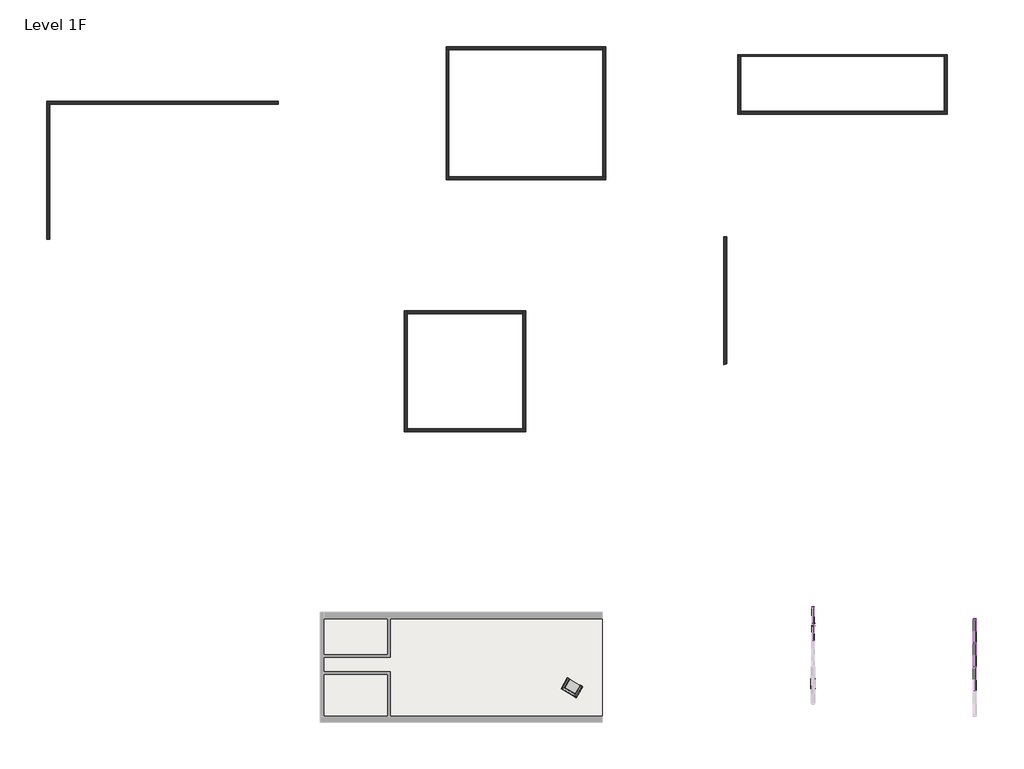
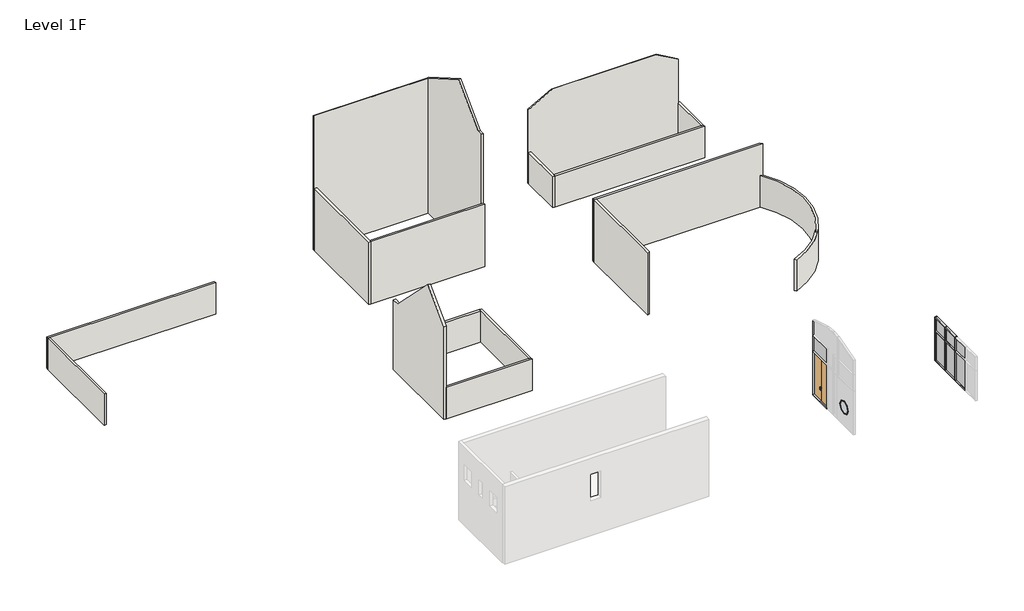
# One storey, part 2 of 2: 17 members, 17 walls, 7 plates, 2 proxies, 1 door, 1 furniture element, 1 slab.
"""IFC4 building model written with IfcOpenShell, lengths in millimetres."""

from ifc_helpers import new_model, si_unit, point, frame, frame_2d, origin, place, context, project, spatial, polyline, circle_curve, trimmed, segment, composite_curve, outline, extrude, faceted_brep, transform, mapped, element, save
from ifc_brep_helpers import plane_surface, cylinder_surface, revolved_surface, advanced_brep
from components import m_trim_window_exterior_flat_round_picture_frame_20400262, m_door_curtain_wall_double_glass_m_door_curtain_wall_double_733e1639, m_chair_corbu_m_chair_corbu_62085674, rectangular_mullion_50_x_150mm_53f686a5, rectangular_mullion_50_x_150mm_8f456225, rectangular_mullion_50_x_150mm_18e46138, rectangular_mullion_50_x_150mm_87e1da99, rectangular_mullion_50_x_150mm_6225e4e3, rectangular_mullion_50_x_150mm_662c37b1, rectangular_mullion_50_x_150mm_b3a53f5b, rectangular_mullion_50_x_150mm_00d54206, rectangular_mullion_50_x_150mm_5f5d7509, rectangular_mullion_50_x_150mm_06e5b0ac, rectangular_mullion_50_x_150mm_1e3c48d4, rectangular_mullion_50_x_150mm_128d93fb, system_panel_glazed_f465e8e4, system_panel_glazed_e98588a4, system_panel_glazed_da0c020f, system_panel_glazed_390bf5ad, system_panel_glazed_fd5f4e28

model = new_model("IFC4")

# Units and contexts
model_context = context("Model", 3, world=origin())
ifc_project = project(units=[si_unit("LENGTHUNIT", "METRE", prefix="MILLI")], contexts=[model_context])

# Site, building, storey
site = spatial("IfcSite", under=ifc_project)
building = spatial("IfcBuilding", under=site)
storey = spatial("IfcBuildingStorey", under=building, Name="Level 1F", Elevation=100.0)

# Proxies
placement = place(None, origin())
m_trim_window_exterior_flat_round_picture_frame_shape = m_trim_window_exterior_flat_round_picture_frame_20400262(model_context)
element("IfcBuildingElementProxy", 1, Name="M_Trim-Window-Exterior-Flat-Round : Picture Frame", ObjectType="M_Trim-Window-Exterior-Flat-Round : Picture Frame", at=placement, inside=storey, context=model_context, shape_type="MappedRepresentation", body=[
    mapped(m_trim_window_exterior_flat_round_picture_frame_shape, transform((19526.2760724, -10895.0423226, 2090.2249317), x_axis=(0.0, 1.0, 0.0), y_axis=(0.0, 0.0, 1.0), z_axis=(1.0, 0.0, 0.0))),
])
element("IfcBuildingElementProxy", 2, Name="M_Trim-Window-Interior-Flat-Round : Picture Frame", ObjectType="M_Trim-Window-Interior-Flat-Round : Picture Frame", at=placement, inside=storey, context=model_context, shape_type="MappedRepresentation", body=[
    mapped(m_trim_window_exterior_flat_round_picture_frame_shape, transform((19326.2760724, -10895.0423226, 2090.2249317), x_axis=(0.0, -1.0, 0.0), y_axis=(0.0, 0.0, 1.0), z_axis=(-1.0, 0.0, 0.0))),
])

# Door
m_door_curtain_wall_double_glass_m_door_curtain_wall_double_shape = m_door_curtain_wall_double_glass_m_door_curtain_wall_double_733e1639(model_context)
element("IfcDoor", 3, ObjectType="M_Door-Curtain-Wall-Double-Glass : M_Door-Curtain-Wall-Double-Glass", at=placement, inside=storey, context=model_context, shape_type="MappedRepresentation", body=[
    mapped(m_door_curtain_wall_double_glass_m_door_curtain_wall_double_shape, transform((19426.2760724, -7634.3966791, 150.0), x_axis=(0.0, -1.0, 0.0), y_axis=(1.0, 0.0, 0.0), z_axis=(0.0, 0.0, 1.0))),
])

# Furniture
m_chair_corbu_m_chair_corbu_shape = m_chair_corbu_m_chair_corbu_62085674(model_context)
element("IfcFurniture", 4, ObjectType="M_Chair-Corbu : M_Chair-Corbu", at=placement, inside=storey, context=model_context, shape_type="MappedRepresentation", body=[
    mapped(m_chair_corbu_m_chair_corbu_shape, transform((6893.346578, -10996.1335961, 100.0), x_axis=(-0.8660254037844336, 0.5000000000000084, 0.0), y_axis=(-0.5000000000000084, -0.8660254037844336, 0.0), z_axis=(0.0, 0.0, 1.0))),
])

# Members
rectangular_mullion_50_x_150mm_shape = rectangular_mullion_50_x_150mm_53f686a5(model_context)
element("IfcMember", 5, ObjectType="Rectangular Mullion : 50 x 150mm", at=placement, inside=storey, context=model_context, shape_type="MappedRepresentation", body=[
    mapped(rectangular_mullion_50_x_150mm_shape, transform((28326.2760724, -8634.3966792, 3613.7564813), x_axis=(0.0, 0.0, 1.0), y_axis=(-1.0, 0.0, 0.0), z_axis=(0.0, -1.0, 0.0))),
])
element("IfcMember", 6, ObjectType="Rectangular Mullion : 50 x 150mm", at=placement, inside=storey, context=model_context, shape_type="MappedRepresentation", body=[
    mapped(rectangular_mullion_50_x_150mm_shape, transform((28326.2760724, -7371.8966791, 100.0), x_axis=(0.0, 0.0, -1.0), y_axis=(-1.0, 0.0, 0.0), z_axis=(0.0, 1.0, 0.0))),
])
rectangular_mullion_50_x_150mm_2_shape = rectangular_mullion_50_x_150mm_8f456225(model_context)
element("IfcMember", 7, ObjectType="Rectangular Mullion : 50 x 150mm", at=placement, inside=storey, context=model_context, shape_type="MappedRepresentation", body=[
    mapped(rectangular_mullion_50_x_150mm_2_shape, transform((28326.2760724, -9971.8966791, 3613.7564813), x_axis=(0.0, 0.0, 1.0), y_axis=(-1.0, 0.0, 0.0), z_axis=(0.0, -1.0, 0.0))),
])
element("IfcMember", 8, ObjectType="Rectangular Mullion : 50 x 150mm", at=placement, inside=storey, context=model_context, shape_type="MappedRepresentation", body=[
    mapped(rectangular_mullion_50_x_150mm_2_shape, transform((28326.2760724, -8684.3966792, 100.0), x_axis=(0.0, 0.0, -1.0), y_axis=(-1.0, 0.0, 0.0), z_axis=(0.0, 1.0, 0.0))),
])
element("IfcMember", 9, ObjectType="Rectangular Mullion : 50 x 150mm", at=placement, inside=storey, context=model_context, shape_type="MappedRepresentation", body=[
    mapped(rectangular_mullion_50_x_150mm_2_shape, transform((28326.2760724, -10021.8966791, 100.0), x_axis=(0.0, 0.0, -1.0), y_axis=(-1.0, 0.0, 0.0), z_axis=(0.0, 1.0, 0.0))),
])
rectangular_mullion_50_x_150mm_3_shape = rectangular_mullion_50_x_150mm_18e46138(model_context)
element("IfcMember", 10, ObjectType="Rectangular Mullion : 50 x 150mm", at=placement, inside=storey, context=model_context, shape_type="MappedRepresentation", body=[
    mapped(rectangular_mullion_50_x_150mm_3_shape, transform((28326.2760724, -8634.3966792, 2500.0), x_axis=(0.0, 0.0, 1.0), y_axis=(-1.0, 0.0, 0.0), z_axis=(0.0, -1.0, 0.0))),
])
rectangular_mullion_50_x_150mm_4_shape = rectangular_mullion_50_x_150mm_87e1da99(model_context)
element("IfcMember", 11, ObjectType="Rectangular Mullion : 50 x 150mm", at=placement, inside=storey, context=model_context, shape_type="MappedRepresentation", body=[
    mapped(rectangular_mullion_50_x_150mm_4_shape, transform((28326.2760724, -9971.8966791, 2500.0), x_axis=(0.0, 0.0, 1.0), y_axis=(-1.0, 0.0, 0.0), z_axis=(0.0, -1.0, 0.0))),
])
rectangular_mullion_50_x_150mm_5_shape = rectangular_mullion_50_x_150mm_6225e4e3(model_context)
element("IfcMember", 12, ObjectType="Rectangular Mullion : 50 x 150mm", at=placement, inside=storey, context=model_context, shape_type="MappedRepresentation", body=[
    mapped(rectangular_mullion_50_x_150mm_5_shape, transform((28326.2760724, -8659.3966792, 100.0), x_axis=(0.0, -1.0, 0.0), y_axis=(-1.0, 0.0, 0.0), z_axis=(0.0, 0.0, -1.0))),
])
element("IfcMember", 13, ObjectType="Rectangular Mullion : 50 x 150mm", at=placement, inside=storey, context=model_context, shape_type="MappedRepresentation", body=[
    mapped(rectangular_mullion_50_x_150mm_5_shape, transform((28326.2760724, -9996.8966791, 100.0), x_axis=(0.0, -1.0, 0.0), y_axis=(-1.0, 0.0, 0.0), z_axis=(0.0, 0.0, -1.0))),
])
rectangular_mullion_50_x_150mm_6_shape = rectangular_mullion_50_x_150mm_662c37b1(model_context)
element("IfcMember", 14, ObjectType="Rectangular Mullion : 50 x 150mm", at=placement, inside=storey, context=model_context, shape_type="MappedRepresentation", body=[
    mapped(rectangular_mullion_50_x_150mm_6_shape, transform((28326.2760724, -7321.8966791, 2500.0), x_axis=(0.0, 1.0, 0.0), y_axis=(-1.0, 0.0, 0.0), z_axis=(0.0, 0.0, 1.0))),
])
rectangular_mullion_50_x_150mm_7_shape = rectangular_mullion_50_x_150mm_b3a53f5b(model_context)
element("IfcMember", 15, ObjectType="Rectangular Mullion : 50 x 150mm", at=placement, inside=storey, context=model_context, shape_type="MappedRepresentation", body=[
    mapped(rectangular_mullion_50_x_150mm_7_shape, transform((28326.2760724, -8659.3966792, 2500.0), x_axis=(0.0, -1.0, 0.0), y_axis=(-1.0, 0.0, 0.0), z_axis=(0.0, 0.0, -1.0))),
])
element("IfcMember", 16, ObjectType="Rectangular Mullion : 50 x 150mm", at=placement, inside=storey, context=model_context, shape_type="MappedRepresentation", body=[
    mapped(rectangular_mullion_50_x_150mm_7_shape, transform((28326.2760724, -9996.8966791, 2500.0), x_axis=(0.0, -1.0, 0.0), y_axis=(-1.0, 0.0, 0.0), z_axis=(0.0, 0.0, -1.0))),
])
rectangular_mullion_50_x_150mm_8_shape = rectangular_mullion_50_x_150mm_00d54206(model_context)
element("IfcMember", 17, ObjectType="Rectangular Mullion : 50 x 150mm", at=placement, inside=storey, context=model_context, shape_type="MappedRepresentation", body=[
    mapped(rectangular_mullion_50_x_150mm_8_shape, transform((28326.2760724, -7321.8966791, 3613.7564813), x_axis=(0.0, 1.0, 0.0), y_axis=(-1.0, 0.0, 0.0), z_axis=(0.0, 0.0, 1.0))),
])
rectangular_mullion_50_x_150mm_9_shape = rectangular_mullion_50_x_150mm_5f5d7509(model_context)
element("IfcMember", 18, ObjectType="Rectangular Mullion : 50 x 150mm", at=placement, inside=storey, context=model_context, shape_type="MappedRepresentation", body=[
    mapped(rectangular_mullion_50_x_150mm_9_shape, transform((19426.2760724, -6721.8966791, 100.0), x_axis=(0.0, 0.0, -1.0), y_axis=(-1.0, 0.0, 0.0), z_axis=(0.0, 1.0, 0.0))),
])
rectangular_mullion_50_x_150mm_10_shape = rectangular_mullion_50_x_150mm_06e5b0ac(model_context)
element("IfcMember", 19, ObjectType="Rectangular Mullion : 50 x 150mm", at=placement, inside=storey, context=model_context, shape_type="MappedRepresentation", body=[
    mapped(rectangular_mullion_50_x_150mm_10_shape, transform((19426.2760724, -6671.8966791, 3600.0), x_axis=(0.0, 1.0, 0.0), y_axis=(-1.0, 0.0, 0.0), z_axis=(0.0, 0.0, 1.0))),
])
rectangular_mullion_50_x_150mm_11_shape = rectangular_mullion_50_x_150mm_1e3c48d4(model_context)
element("IfcMember", 20, ObjectType="Rectangular Mullion : 50 x 150mm", at=placement, inside=storey, context=model_context, shape_type="MappedRepresentation", body=[
    mapped(rectangular_mullion_50_x_150mm_11_shape, transform((19426.2760724, -6671.8966791, 4900.0), x_axis=(0.0, 1.0, 0.0), y_axis=(-1.0, 0.0, 0.0), z_axis=(0.0, 0.0, 1.0))),
])
rectangular_mullion_50_x_150mm_12_shape = rectangular_mullion_50_x_150mm_128d93fb(model_context)
element("IfcMember", 21, ObjectType="Rectangular Mullion : 50 x 150mm", at=placement, inside=storey, context=model_context, shape_type="MappedRepresentation", body=[
    mapped(rectangular_mullion_50_x_150mm_12_shape, transform((19426.2760724, -6671.8966791, 6075.169852), x_axis=(0.0, 1.0, 0.0), y_axis=(-1.0, 0.0, 0.0), z_axis=(0.0, 0.0, 1.0))),
])

# Plates
system_panel_glazed_shape = system_panel_glazed_f465e8e4(model_context)
element("IfcPlate", 22, ObjectType="System Panel : Glazed", at=placement, inside=storey, context=model_context, shape_type="MappedRepresentation", body=[
    mapped(system_panel_glazed_shape, transform((28326.2760724, -8003.1466791, 150.0), x_axis=(0.0, -1.0, 0.0), y_axis=(1.0, 0.0, 0.0), z_axis=(0.0, 0.0, 1.0))),
])
system_panel_glazed_2_shape = system_panel_glazed_e98588a4(model_context)
element("IfcPlate", 23, ObjectType="System Panel : Glazed", at=placement, inside=storey, context=model_context, shape_type="MappedRepresentation", body=[
    mapped(system_panel_glazed_2_shape, transform((28326.2760724, -9328.1466791, 150.0), x_axis=(0.0, -1.0, 0.0), y_axis=(1.0, 0.0, 0.0), z_axis=(0.0, 0.0, 1.0))),
])
element("IfcPlate", 24, ObjectType="System Panel : Glazed", at=placement, inside=storey, context=model_context, shape_type="MappedRepresentation", body=[
    mapped(system_panel_glazed_2_shape, transform((28326.2760724, -10665.646679, 150.0), x_axis=(0.0, -1.0, 0.0), y_axis=(1.0, 0.0, 0.0), z_axis=(0.0, 0.0, 1.0))),
])
system_panel_glazed_3_shape = system_panel_glazed_da0c020f(model_context)
element("IfcPlate", 25, ObjectType="System Panel : Glazed", at=placement, inside=storey, context=model_context, shape_type="MappedRepresentation", body=[
    mapped(system_panel_glazed_3_shape, transform((28326.2760724, -8003.1466791, 2525.0), x_axis=(0.0, -1.0, 0.0), y_axis=(1.0, 0.0, 0.0), z_axis=(0.0, 0.0, 1.0))),
])
system_panel_glazed_4_shape = system_panel_glazed_390bf5ad(model_context)
element("IfcPlate", 26, ObjectType="System Panel : Glazed", at=placement, inside=storey, context=model_context, shape_type="MappedRepresentation", body=[
    mapped(system_panel_glazed_4_shape, transform((28326.2760724, -9328.1466791, 2525.0), x_axis=(0.0, -1.0, 0.0), y_axis=(1.0, 0.0, 0.0), z_axis=(0.0, 0.0, 1.0))),
])
element("IfcPlate", 27, ObjectType="System Panel : Glazed", at=placement, inside=storey, context=model_context, shape_type="MappedRepresentation", body=[
    mapped(system_panel_glazed_4_shape, transform((28326.2760724, -10665.646679, 2525.0), x_axis=(0.0, -1.0, 0.0), y_axis=(1.0, 0.0, 0.0), z_axis=(0.0, 0.0, 1.0))),
])
system_panel_glazed_5_shape = system_panel_glazed_fd5f4e28(model_context)
element("IfcPlate", 28, ObjectType="System Panel : Glazed", at=placement, inside=storey, context=model_context, shape_type="MappedRepresentation", body=[
    mapped(system_panel_glazed_5_shape, transform((19426.2760724, -7634.3966791, 3625.0), x_axis=(0.0, -1.0, 0.0), y_axis=(1.0, 0.0, 0.0), z_axis=(0.0, 0.0, 1.0))),
])

# Slab
element("IfcSlab", 29, ObjectType="Standard Timber-Wood Finish", at=placement, inside=storey, context=model_context, shape_type="Brep", body=[
    faceted_brep([(7826.2760724, -7308.8966791, -141.0), (7826.2760724, -7321.8966791, -141.0), (7826.2760724, -12671.8966791, -141.0), (7826.2760724, -12684.8966791, -141.0), (-7473.7239276, -12684.8966791, -141.0), (-7473.7239276, -12671.8966791, -141.0), (-7473.7239276, -7321.8966791, -141.0), (-7473.7239276, -7308.8966791, -141.0), (7826.2760724, -7308.8966791, 100.0), (-7473.7239276, -7308.8966791, 100.0), (-7473.7239276, -7321.8966791, 100.0), (-7473.7239276, -12671.8966791, 100.0), (-7473.7239276, -12684.8966791, 100.0), (7826.2760724, -12684.8966791, 100.0), (7826.2760724, -12671.8966791, 100.0), (7826.2760724, -7321.8966791, 100.0)], [[[0, 1, 2, 3, 4, 5, 6, 7]], [[8, 9, 10, 11, 12, 13, 14, 15]], [[3, 2, 1, 0, 8, 15, 14, 13]], [[4, 3, 13, 12]], [[7, 6, 5, 4, 12, 11, 10, 9]], [[0, 7, 9, 8]]]),
])

# Walls
element("IfcWall", 30, ObjectType="Generic - 90mm Brick", at=placement, inside=storey, context=model_context, shape_type="Brep", body=[
    faceted_brep([(15280.0016487, 23611.3653338, 100.0), (15444.0016487, 23611.3653338, 100.0), (26632.8479832, 23611.3653338, 100.0), (26632.8479832, 23611.3653338, 6094.6854441), (24937.7971756, 23611.3653338, 7073.3234842), (17139.0524562, 23611.3653338, 7073.3234842), (15280.0016487, 23611.3653338, 6000.0), (15280.0016487, 23611.3653338, 2600.0), (15280.0016487, 23701.3653338, 100.0), (15280.0016487, 23701.3653338, 6000.0), (17049.0524562, 23701.3653338, 7021.36196), (25027.7971756, 23701.3653338, 7021.36196), (26632.8479832, 23701.3653338, 6094.6854441), (26632.8479832, 23701.3653338, 2600.0), (26632.8479832, 23701.3653338, 100.0)], [[[0, 1, 2, 3, 4, 5, 6, 7]], [[8, 9, 10, 11, 12, 13, 14]], [[2, 1, 0, 8, 14]], [[3, 2, 14, 13, 12]], [[0, 7, 6, 9, 8]], [[6, 5, 10, 9]], [[5, 4, 11, 10]], [[4, 3, 12, 11]]]),
])
element("IfcWall", 31, ObjectType="Interior - Blockwork 140", at=placement, inside=storey, context=model_context, shape_type="Brep", body=[
    faceted_brep([(-22720.7776733, 20962.3175214, 100.0), (-22556.7776733, 20962.3175214, 100.0), (-9992.9185549, 20962.3175214, 100.0), (-9992.9185549, 20962.3175214, 2600.0), (-22556.7776733, 20962.3175214, 2600.0), (-22720.7776733, 20962.3175214, 2600.0), (-22720.7776733, 21126.3175214, 100.0), (-22720.7776733, 21126.3175214, 2600.0), (-9992.9185549, 21126.3175214, 2600.0), (-9992.9185549, 21126.3175214, 100.0)], [[[0, 1, 2, 3, 4, 5]], [[6, 7, 8, 9]], [[2, 1, 0, 6, 9]], [[5, 4, 3, 8, 7]], [[0, 5, 7, 6]], [[3, 2, 9, 8]]]),
])
element("IfcWall", 32, ObjectType="Interior - Blockwork 140", at=placement, inside=storey, context=model_context, shape_type="Brep", body=[
    faceted_brep([(-22556.7776733, 13559.4735236, 100.0), (-22556.7776733, 13723.4735236, 100.0), (-22556.7776733, 20962.3175214, 100.0), (-22556.7776733, 20962.3175214, 2600.0), (-22556.7776733, 13559.4735236, 2600.0), (-22720.7776733, 13559.4735236, 100.0), (-22720.7776733, 13559.4735236, 2600.0), (-22720.7776733, 20962.3175214, 2600.0), (-22720.7776733, 20962.3175214, 100.0)], [[[0, 1, 2, 3, 4]], [[5, 6, 7, 8]], [[2, 1, 0, 5, 8]], [[4, 3, 7, 6]], [[0, 4, 6, 5]], [[3, 2, 8, 7]]]),
])
element("IfcWall", 33, ObjectType="Interior - Blockwork 140", at=placement, inside=storey, context=model_context, shape_type="Brep", body=[
    faceted_brep([(3636.4181918, 3121.7296624, 100.0), (3472.4181918, 3121.7296624, 100.0), (-2890.0420521, 3121.7296624, 100.0), (-2890.0420521, 3121.7296624, 2600.0), (3472.4181918, 3121.7296624, 2600.0), (3636.4181918, 3121.7296624, 2600.0), (3636.4181918, 2957.7296624, 100.0), (3636.4181918, 2957.7296624, 2600.0), (-2890.0420521, 2957.7296624, 2600.0), (-2890.0420521, 2957.7296624, 100.0)], [[[0, 1, 2, 3, 4, 5]], [[6, 7, 8, 9]], [[2, 1, 0, 6, 9]], [[5, 4, 3, 8, 7]], [[0, 5, 7, 6]], [[3, 2, 9, 8]]]),
])
element("IfcWall", 34, ObjectType="Interior - Blockwork 140", at=placement, inside=storey, context=model_context, shape_type="Brep", body=[
    faceted_brep([(3472.4181918, 9606.800088, 100.0), (3472.4181918, 9442.800088, 100.0), (3472.4181918, 3121.7296624, 100.0), (3472.4181918, 3121.7296624, 2600.0), (3472.4181918, 9442.800088, 2600.0), (3472.4181918, 9606.800088, 2600.0), (3636.4181918, 9606.800088, 100.0), (3636.4181918, 9606.800088, 2600.0), (3636.4181918, 3121.7296624, 2600.0), (3636.4181918, 3121.7296624, 100.0)], [[[0, 1, 2, 3, 4, 5]], [[6, 7, 8, 9]], [[2, 1, 0, 6, 9]], [[5, 4, 3, 8, 7]], [[0, 5, 7, 6]], [[3, 2, 9, 8]]]),
])
element("IfcWall", 35, ObjectType="Interior - Blockwork 140", at=placement, inside=storey, context=model_context, shape_type="SweptSolid", body=[
    extrude(outline(polyline([(3472.4181918, 9442.800088), (-2890.0420521, 9442.800088), (-2890.0420521, 9606.800088), (3472.4181918, 9606.800088), (3472.4181918, 9442.800088)])), frame((0.0, 0.0, 100.0), z_axis=(0.0, 0.0, 1.0), x_axis=(1.0, 0.0, 0.0)), (0.0, 0.0, 1.0), 2500.0),
])
element("IfcWall", 36, ObjectType="Interior - Blockwork 140", at=placement, inside=storey, context=model_context, shape_type="Brep", body=[
    faceted_brep([(-2890.0420521, 2957.7296624, 100.0), (-2890.0420521, 3121.7296624, 100.0), (-2890.0420521, 9606.800088, 100.0), (-2890.0420521, 9606.800088, 5665.6854249), (-2890.0420521, 9041.1146631, 5665.6854249), (-2890.0420521, 5064.2648752, 9642.5352128), (-2890.0420521, 2957.7296624, 7536.0), (-2890.0420521, 2957.7296624, 2600.0), (-3054.0420521, 2957.7296624, 100.0), (-3054.0420521, 2957.7296624, 7536.0), (-3054.0420521, 5064.2648752, 9642.5352128), (-3054.0420521, 9041.1146631, 5665.6854249), (-3054.0420521, 9606.800088, 5665.6854249), (-3054.0420521, 9606.800088, 100.0)], [[[0, 1, 2, 3, 4, 5, 6, 7]], [[8, 9, 10, 11, 12, 13]], [[2, 1, 0, 8, 13]], [[3, 2, 13, 12]], [[0, 7, 6, 9, 8]], [[5, 4, 11, 10]], [[6, 5, 10, 9]], [[4, 3, 12, 11]]]),
])
element("IfcWall", 37, ObjectType="Interior - Blockwork 140", at=placement, inside=storey, context=model_context, shape_type="AdvancedBrep", body=[
    advanced_brep(
    [(14516.0016487, 13681.7719705, 100.0), (14680.0016487, 13681.7719705, 100.0), (27120.4556208, 13681.7719705, 100.0), (27322.2008176, 13681.7719705, 100.0), (27322.2008176, 13681.7719705, 2600.0), (27322.2008176, 13681.7719705, 5100.0), (14680.0016487, 13681.7719705, 5100.0), (14516.0016487, 13681.7719705, 5100.0), (14516.0016487, 13845.7719705, 100.0), (14516.0016487, 13845.7719705, 5100.0), (27203.0397407, 13845.7719705, 5100.0), (27203.0397407, 13845.7719705, 100.0)],
    [
        (0, 1),
        (1, 2),
        (2, 3),
        (3, 4),
        (4, 5),
        (5, 6),
        (6, 7),
        (7, 0),
        (8, 9),
        (9, 10),
        (10, 11),
        (11, 8),
        (0, 8),
        (11, 3, circle_curve(frame((22149.067056, 10048.3054534, 100.0), z_axis=(0.0, 0.0, -1.0), x_axis=(1.0, 0.0, 0.0)), 6321.6605292)),
        (5, 10, circle_curve(frame((22149.067056, 10048.3054534, 5100.0), z_axis=(0.0, 0.0, 1.0), x_axis=(1.0, 0.0, 0.0)), 6321.6605292)),
        (9, 7),
    ],
    [
        plane_surface(frame((14598.0016487, 13681.7719705, 100.0), z_axis=(0.0, -1.0, 0.0), x_axis=(1.0, 0.0, 0.0))),
        plane_surface(frame((14598.0016487, 13845.7719705, 100.0), z_axis=(0.0, 1.0, 0.0), x_axis=(-1.0, 0.0, 0.0))),
        plane_surface(frame((14598.0016487, 13681.7719705, 100.0), z_axis=(0.0, 0.0, -1.0), x_axis=(0.0, 1.0, 0.0))),
        plane_surface(frame((27161.91775, 13681.7719705, 5100.0), z_axis=(0.0, 0.0, 1.0), x_axis=(0.0, 1.0, 0.0))),
        plane_surface(frame((14516.0016487, 10807.8735931, 100.0), z_axis=(-1.0, 0.0, 0.0), x_axis=(0.0, -1.0, 0.0))),
        cylinder_surface(frame((22149.067056, 10048.3054534, 100.0), z_axis=(0.0, 0.0, 1.0), x_axis=(1.0, 0.0, 0.0)), 6321.6605292),
    ],
    [
        (0, [[1, 2, 3, 4, 5, 6, 7, 8]]),
        (1, [[9, 10, 11, 12]]),
        (2, [[-3, -2, -1, 13, -12, 14]]),
        (3, [[-7, -6, 15, -10, 16]]),
        (4, [[-8, -16, -9, -13]]),
        (5, [[-5, -4, -14, -11, -15]]),
    ],
),
])
element("IfcWall", 38, ObjectType="Interior - Blockwork 140", at=placement, inside=storey, context=model_context, shape_type="AdvancedBrep", body=[
    advanced_brep(
    [(14680.0016487, 6710.0245253, 100.0), (14680.0016487, 6888.2777937, 100.0), (14680.0016487, 13681.7719705, 100.0), (14680.0016487, 13681.7719705, 5100.0), (14680.0016487, 6710.0245253, 5100.0), (14516.0016487, 6637.1117558, 100.0), (14516.0016487, 6637.1117558, 5100.0), (14516.0016487, 13681.7719705, 5100.0), (14516.0016487, 13681.7719705, 100.0)],
    [
        (0, 1),
        (1, 2),
        (2, 3),
        (3, 4),
        (4, 0),
        (5, 6),
        (6, 7),
        (7, 8),
        (8, 5),
        (0, 5, circle_curve(frame((17812.7322385, -557.2066614, 100.0), z_axis=(0.0, 0.0, 1.0), x_axis=(1.0, 0.0, 0.0)), 7913.7001503)),
        (8, 2),
        (3, 7),
        (6, 4, circle_curve(frame((17812.7322385, -557.2066614, 5100.0), z_axis=(0.0, 0.0, -1.0), x_axis=(1.0, 0.0, 0.0)), 7913.7001503)),
    ],
    [
        plane_surface(frame((14680.0016487, 10807.8735931, 100.0), z_axis=(1.0, 0.0, 0.0), x_axis=(0.0, 1.0, 0.0))),
        plane_surface(frame((14516.0016487, 10807.8735931, 100.0), z_axis=(-1.0, 0.0, 0.0), x_axis=(0.0, -1.0, 0.0))),
        plane_surface(frame((14680.0016487, 6763.7719705, 100.0), z_axis=(0.0, 0.0, -1.0), x_axis=(-1.0, 0.0, 0.0))),
        plane_surface(frame((14680.0016487, 13763.7719705, 5100.0), z_axis=(0.0, 0.0, 1.0), x_axis=(-1.0, 0.0, 0.0))),
        plane_surface(frame((14598.0016487, 13681.7719705, 100.0), z_axis=(0.0, 1.0, 0.0), x_axis=(1.0, 0.0, 0.0))),
        revolved_surface(polyline([(25726.4323888, -557.2066614, 100.0), (25726.4323888, -557.2066614, 5100.0)]), (17812.7322385, -557.2066614, 100.0), (0.0, 0.0, -1.0)),
    ],
    [
        (0, [[1, 2, 3, 4, 5]]),
        (1, [[6, 7, 8, 9]]),
        (2, [[-2, -1, 10, -9, 11]]),
        (3, [[-4, 12, -7, 13]]),
        (4, [[-3, -11, -8, -12]]),
        (5, [[-5, -13, -6, -10]]),
    ],
),
])
element("IfcWall", 39, ObjectType="Interior - Blockwork 140", at=placement, inside=storey, context=model_context, shape_type="Brep", body=[
    faceted_brep([(8040.3224185, 16987.197174, 100.0), (7876.3224185, 16987.197174, 100.0), (-589.5939908, 16987.197174, 100.0), (-589.5939908, 16987.197174, 5100.0), (8040.3224185, 16987.197174, 5100.0), (8040.3224185, 16823.197174, 100.0), (8040.3224185, 16823.197174, 5100.0), (-589.5939908, 16823.197174, 5100.0), (-589.5939908, 16823.197174, 100.0)], [[[0, 1, 2, 3, 4]], [[5, 6, 7, 8]], [[2, 1, 0, 5, 8]], [[4, 3, 7, 6]], [[0, 4, 6, 5]], [[3, 2, 8, 7]]]),
])
element("IfcWall", 40, ObjectType="Interior - Blockwork 140", at=placement, inside=storey, context=model_context, shape_type="Brep", body=[
    faceted_brep([(7876.3224185, 24143.5738273, 100.0), (7876.3224185, 23979.5738273, 100.0), (7876.3224185, 16987.197174, 100.0), (7876.3224185, 16987.197174, 10665.6854249), (7876.3224185, 17388.882599, 10665.6854249), (7876.3224185, 19967.446765, 13244.249591), (7876.3224185, 23979.5738273, 10927.8469516), (7876.3224185, 24143.5738273, 10833.1615075), (8040.3224185, 24143.5738273, 100.0), (8040.3224185, 24143.5738273, 10833.1615075), (8040.3224185, 19967.446765, 13244.249591), (8040.3224185, 17388.882599, 10665.6854249), (8040.3224185, 16987.197174, 10665.6854249), (8040.3224185, 16987.197174, 5100.0), (8040.3224185, 16987.197174, 100.0)], [[[0, 1, 2, 3, 4, 5, 6, 7]], [[8, 9, 10, 11, 12, 13, 14]], [[2, 1, 0, 8, 14]], [[0, 7, 9, 8]], [[3, 2, 14, 13, 12]], [[7, 6, 5, 10, 9]], [[5, 4, 11, 10]], [[4, 3, 12, 11]]]),
])
element("IfcWall", 41, ObjectType="Interior - Blockwork 140", at=placement, inside=storey, context=model_context, shape_type="Brep", body=[
    faceted_brep([(-753.5939908, 23979.5738273, 100.0), (-589.5939908, 23979.5738273, 100.0), (7876.3224185, 23979.5738273, 100.0), (7876.3224185, 23979.5738273, 10927.8469516), (-753.5939908, 23979.5738273, 10927.8469516), (-753.5939908, 23979.5738273, 5100.0), (-753.5939908, 24143.5738273, 100.0), (-753.5939908, 24143.5738273, 10833.1615075), (7876.3224185, 24143.5738273, 10833.1615075), (7876.3224185, 24143.5738273, 100.0)], [[[0, 1, 2, 3, 4, 5]], [[6, 7, 8, 9]], [[2, 1, 0, 6, 9]], [[0, 5, 4, 7, 6]], [[3, 2, 9, 8]], [[4, 3, 8, 7]]]),
])
element("IfcWall", 42, ObjectType="Interior - Blockwork 140", at=placement, inside=storey, context=model_context, shape_type="Brep", body=[
    faceted_brep([(-589.5939908, 16823.197174, 100.0), (-589.5939908, 16987.197174, 100.0), (-589.5939908, 23979.5738273, 100.0), (-589.5939908, 23979.5738273, 5100.0), (-589.5939908, 16987.197174, 5100.0), (-589.5939908, 16823.197174, 5100.0), (-753.5939908, 16823.197174, 100.0), (-753.5939908, 16823.197174, 5100.0), (-753.5939908, 23979.5738273, 5100.0), (-753.5939908, 23979.5738273, 100.0)], [[[0, 1, 2, 3, 4, 5]], [[6, 7, 8, 9]], [[2, 1, 0, 6, 9]], [[5, 4, 3, 8, 7]], [[0, 5, 7, 6]], [[3, 2, 9, 8]]]),
])
element("IfcWall", 43, ObjectType="Interior - Blockwork 140", at=placement, inside=storey, context=model_context, shape_type="SweptSolid", body=[
    extrude(outline(composite_curve([segment(polyline([(27120.4556208, 13681.7719705), (27322.2008176, 13681.7719705)]), True, "CONTINUOUS"), segment(trimmed(circle_curve(frame_2d((22149.067056, 10048.3054534)), 6321.6605292), [point((27322.2008176, 13681.7719705))], [point((24387.1083735, 4136.0670526))], False, "CARTESIAN"), True, "CONTINUOUS"), segment(trimmed(circle_curve(frame_2d((17812.7322385, -557.2066614)), 8077.7001503), [point((24387.1083735, 4136.0670526))], [point((24286.7217666, 4273.600653))], True, "CARTESIAN"), True, "CONTINUOUS"), segment(trimmed(circle_curve(frame_2d((22149.067056, 10048.3054534)), 6157.6605292), [point((24286.7217666, 4273.600653))], [point((27120.4556208, 13681.7719705))], True, "CARTESIAN"), True, "CONTINUOUS")], self_intersect=False)), frame((0.0, 0.0, 100.0), z_axis=(0.0, 0.0, 1.0), x_axis=(1.0, 0.0, 0.0)), (0.0, 0.0, 1.0), 2500.0),
])
element("IfcWall", 44, ObjectType="Interior - Blockwork 140", at=placement, inside=storey, context=model_context, shape_type="Brep", body=[
    faceted_brep([(26796.8479832, 20574.3653338, 100.0), (26632.8479832, 20574.3653338, 100.0), (15444.0016487, 20574.3653338, 100.0), (15444.0016487, 20574.3653338, 2600.0), (26632.8479832, 20574.3653338, 2600.0), (26796.8479832, 20574.3653338, 2600.0), (26796.8479832, 20410.3653338, 100.0), (26796.8479832, 20410.3653338, 2600.0), (15444.0016487, 20410.3653338, 2600.0), (15444.0016487, 20410.3653338, 100.0)], [[[0, 1, 2, 3, 4, 5]], [[6, 7, 8, 9]], [[2, 1, 0, 6, 9]], [[5, 4, 3, 8, 7]], [[0, 5, 7, 6]], [[3, 2, 9, 8]]]),
])
element("IfcWall", 45, ObjectType="Interior - Blockwork 140", at=placement, inside=storey, context=model_context, shape_type="Brep", body=[
    faceted_brep([(26632.8479832, 23701.3653338, 100.0), (26632.8479832, 23611.3653338, 100.0), (26632.8479832, 20574.3653338, 100.0), (26632.8479832, 20574.3653338, 2600.0), (26632.8479832, 23701.3653338, 2600.0), (26796.8479832, 23701.3653338, 100.0), (26796.8479832, 23701.3653338, 2600.0), (26796.8479832, 20574.3653338, 2600.0), (26796.8479832, 20574.3653338, 100.0)], [[[0, 1, 2, 3, 4]], [[5, 6, 7, 8]], [[2, 1, 0, 5, 8]], [[4, 3, 7, 6]], [[0, 4, 6, 5]], [[3, 2, 8, 7]]]),
])
element("IfcWall", 46, ObjectType="Interior - Blockwork 140", at=placement, inside=storey, context=model_context, shape_type="Brep", body=[
    faceted_brep([(15444.0016487, 20410.3653338, 100.0), (15444.0016487, 20574.3653338, 100.0), (15444.0016487, 23611.3653338, 100.0), (15444.0016487, 23611.3653338, 2600.0), (15444.0016487, 20574.3653338, 2600.0), (15444.0016487, 20410.3653338, 2600.0), (15280.0016487, 20410.3653338, 100.0), (15280.0016487, 20410.3653338, 2600.0), (15280.0016487, 23611.3653338, 2600.0), (15280.0016487, 23611.3653338, 100.0)], [[[0, 1, 2, 3, 4, 5]], [[6, 7, 8, 9]], [[2, 1, 0, 6, 9]], [[5, 4, 3, 8, 7]], [[0, 5, 7, 6]], [[3, 2, 9, 8]]]),
])

save(model, "model.ifc")
